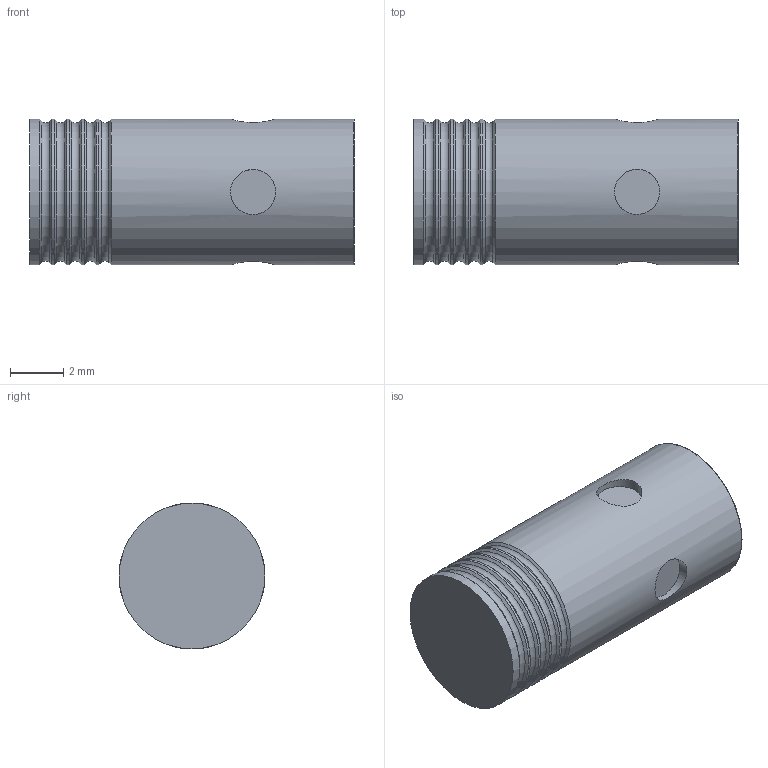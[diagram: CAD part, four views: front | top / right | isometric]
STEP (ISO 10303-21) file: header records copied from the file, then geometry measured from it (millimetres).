
FILE_DESCRIPTION(/* description */ ('LEE SHUTTLE, 558 SERIES'),/* implementation_level */ '2;1');
FILE_NAME(/* name */ '\\ABSOLUTE\SmWork\Vernon\CCSV5510000S.stp',/* time_stamp */ '2021-03-23T15:15:41-04:00',/* author */ ('VernonJ'),/* organization */ (''),/* preprocessor_version */ 'ST-DEVELOPER v18',/* originating_system */ 'Autodesk Inventor 2020',/* authorisation */ '');
FILE_SCHEMA (('AUTOMOTIVE_DESIGN { 1 0 10303 214 3 1 1 }'));
Length unit declared in the file: millimetre
Products named in the file (1): CCSV5510000S
Bounding box: 12.2 x 5.49 x 5.49 mm (x, y, z)
Volume: 281.8 mm3; surface area: 271.7 mm2
Topology: 1 solids, 1 shells, 32 faces, 100 edges, 73 vertices
Faces by surface type: cylinder 10, cone 10, plane 6, torus 6
Full cylindrical faces by diameter (mm): 1.7 x4, 5.49 x6
Entity records: 1352 total; most frequent: CARTESIAN_POINT 346, DIRECTION 229, ORIENTED_EDGE 200, AXIS2_PLACEMENT_3D 104, EDGE_CURVE 100, VERTEX_POINT 73, CIRCLE 71, EDGE_LOOP 35
